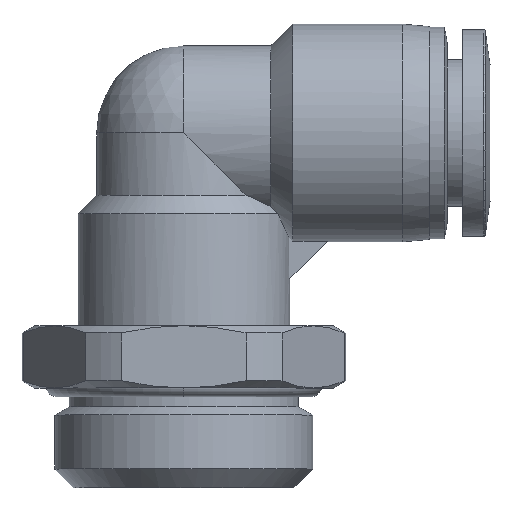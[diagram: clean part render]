
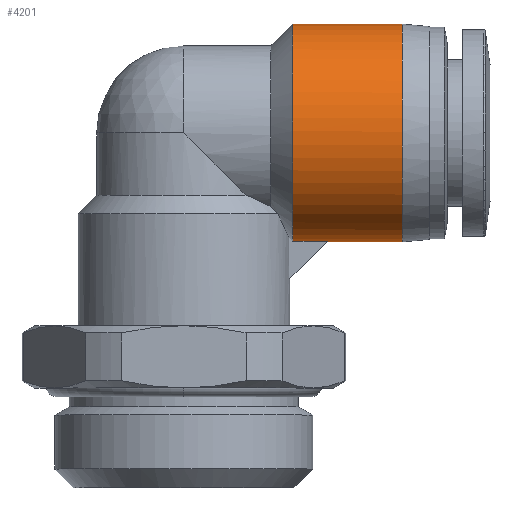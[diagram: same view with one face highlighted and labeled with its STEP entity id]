
A CAD part, top view. The second image highlights one B-rep face of the part: STEP entity #4201.
In plain terms, the highlighted cylindrical face has radius 8.75 mm (diameter 17.5 mm), a partial arc.
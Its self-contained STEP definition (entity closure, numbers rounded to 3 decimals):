
#66 = CARTESIAN_POINT ( 'NONE',  ( 11.557, 6.807, 1. ) ) ;
#123 = EDGE_CURVE ( 'NONE', #518, #2696, #3573, .T. ) ;
#147 = EDGE_CURVE ( 'NONE', #2896, #2742, #3276, .T. ) ;
#255 = CARTESIAN_POINT ( 'NONE',  ( 10.622, 6.807, 1. ) ) ;
#309 = CARTESIAN_POINT ( 'NONE',  ( 8.75, 18.192, 8.398 ) ) ;
#329 = CARTESIAN_POINT ( 'NONE',  ( 8.75, 13.785, 8.651 ) ) ;
#468 = B_SPLINE_CURVE_WITH_KNOTS ( 'NONE', 3,
 ( #3589, #1800, #3243, #66 ),
 .UNSPECIFIED., .F., .F.,
 ( 4, 4 ),
 ( 0.5, 1. ),
 .UNSPECIFIED. ) ;
#518 = VERTEX_POINT ( 'NONE', #2458 ) ;
#533 = VECTOR ( 'NONE', #3085, 1000. ) ;
#553 = CARTESIAN_POINT ( 'NONE',  ( 17.55, 19.907, 7.646 ) ) ;
#602 = CARTESIAN_POINT ( 'NONE',  ( 17.55, 24.022, 2.29 ) ) ;
#637 = CARTESIAN_POINT ( 'NONE',  ( 8.75, 24.039, 2.207 ) ) ;
#679 = DIRECTION ( 'NONE',  ( 1., 0., 0. ) ) ;
#742 = ORIENTED_EDGE ( 'NONE', *, *, #4444, .F. ) ;
#758 = LINE ( 'NONE', #3519, #3927 ) ;
#794 = CARTESIAN_POINT ( 'NONE',  ( 9.686, 6.807, 1. ) ) ;
#817 = CARTESIAN_POINT ( 'NONE',  ( 17.55, 17.79, 8.522 ) ) ;
#882 = CARTESIAN_POINT ( 'NONE',  ( 17.55, 6.75, 0. ) ) ;
#948 = CARTESIAN_POINT ( 'NONE',  ( 17.55, 11.093, 7.646 ) ) ;
#979 = CARTESIAN_POINT ( 'NONE',  ( 8.75, 9.022, 5.985 ) ) ;
#991 = CARTESIAN_POINT ( 'NONE',  ( 8.75, 6.807, 1. ) ) ;
#1020 = CARTESIAN_POINT ( 'NONE',  ( 8.75, 17.103, 8.672 ) ) ;
#1041 = CARTESIAN_POINT ( 'NONE',  ( 8.75, 14.899, 8.799 ) ) ;
#1285 = CARTESIAN_POINT ( 'NONE',  ( 13.15, 6.75, 0. ) ) ;
#1357 = EDGE_CURVE ( 'NONE', #2752, #2896, #3070, .T. ) ;
#1359 = ORIENTED_EDGE ( 'NONE', *, *, #1973, .T. ) ;
#1494 = CARTESIAN_POINT ( 'NONE',  ( 17.55, 20.877, 6.997 ) ) ;
#1800 = CARTESIAN_POINT ( 'NONE',  ( 11.5, 6.75, 0.333 ) ) ;
#1919 = CARTESIAN_POINT ( 'NONE',  ( 17.55, 23.146, 4.407 ) ) ;
#1948 = CARTESIAN_POINT ( 'NONE',  ( 17.55, 24.25, 0. ) ) ;
#1973 = EDGE_CURVE ( 'NONE', #3363, #2696, #4457, .T. ) ;
#1979 = ORIENTED_EDGE ( 'NONE', *, *, #147, .T. ) ;
#2002 = CARTESIAN_POINT ( 'NONE',  ( 8.75, 10.711, 7.406 ) ) ;
#2045 = EDGE_LOOP ( 'NONE', ( #3350, #1359, #4130, #742, #3411, #1979 ) ) ;
#2047 = CARTESIAN_POINT ( 'NONE',  ( 8.75, 24.25, 1.104 ) ) ;
#2094 = CARTESIAN_POINT ( 'NONE',  ( 8.75, 6.933, 2.096 ) ) ;
#2191 = CARTESIAN_POINT ( 'NONE',  ( 17.55, 16.645, 8.75 ) ) ;
#2367 = CARTESIAN_POINT ( 'NONE',  ( 8.75, 11.691, 7.954 ) ) ;
#2436 = FACE_OUTER_BOUND ( 'NONE', #2045, .T. ) ;
#2458 = CARTESIAN_POINT ( 'NONE',  ( 17.55, 24.25, 0. ) ) ;
#2692 = CARTESIAN_POINT ( 'NONE',  ( 17.55, 22.497, 5.377 ) ) ;
#2696 = VERTEX_POINT ( 'NONE', #882 ) ;
#2716 = CARTESIAN_POINT ( 'NONE',  ( 17.55, 7.854, 4.407 ) ) ;
#2742 = VERTEX_POINT ( 'NONE', #3415 ) ;
#2747 = AXIS2_PLACEMENT_3D ( 'NONE', #3441, #679, #4169 ) ;
#2752 = VERTEX_POINT ( 'NONE', #3311 ) ;
#2831 = CARTESIAN_POINT ( 'NONE',  ( 8.75, 6.807, 1. ) ) ;
#2896 = VERTEX_POINT ( 'NONE', #991 ) ;
#2923 = CARTESIAN_POINT ( 'NONE',  ( 17.55, 10.123, 6.997 ) ) ;
#3012 = CARTESIAN_POINT ( 'NONE',  ( 17.55, 13.21, 8.522 ) ) ;
#3070 = B_SPLINE_CURVE_WITH_KNOTS ( 'NONE', 3,
 ( #3510, #2047, #637, #3154, #4186, #3484, #4145, #309, #1020, #1041, #329, #2367, #2002, #979, #4556, #3439, #2094, #2831 ),
 .UNSPECIFIED., .F., .F.,
 ( 4, 2, 2, 2, 2, 2, 2, 2, 4 ),
 ( 0.5, 0.563, 0.625, 0.688, 0.75, 0.813, 0.875, 0.938, 1. ),
 .UNSPECIFIED. ) ;
#3085 = DIRECTION ( 'NONE',  ( 1., 0., 0. ) ) ;
#3154 = CARTESIAN_POINT ( 'NONE',  ( 8.75, 23.223, 4.258 ) ) ;
#3215 = DIRECTION ( 'NONE',  ( 1., 0., 0. ) ) ;
#3243 = CARTESIAN_POINT ( 'NONE',  ( 11.519, 6.769, 0.667 ) ) ;
#3276 = B_SPLINE_CURVE_WITH_KNOTS ( 'NONE', 3,
 ( #3755, #794, #255, #4328 ),
 .UNSPECIFIED., .F., .F.,
 ( 4, 4 ),
 ( 0., 1. ),
 .UNSPECIFIED. ) ;
#3311 = CARTESIAN_POINT ( 'NONE',  ( 8.75, 24.25, 0. ) ) ;
#3350 = ORIENTED_EDGE ( 'NONE', *, *, #4163, .F. ) ;
#3363 = VERTEX_POINT ( 'NONE', #4463 ) ;
#3406 = CARTESIAN_POINT ( 'NONE',  ( 17.55, 24.25, 1.145 ) ) ;
#3411 = ORIENTED_EDGE ( 'NONE', *, *, #1357, .T. ) ;
#3415 = CARTESIAN_POINT ( 'NONE',  ( 11.557, 6.807, 1. ) ) ;
#3430 = CARTESIAN_POINT ( 'NONE',  ( 17.55, 6.978, 2.29 ) ) ;
#3439 = CARTESIAN_POINT ( 'NONE',  ( 8.75, 7.269, 3.168 ) ) ;
#3441 = CARTESIAN_POINT ( 'NONE',  ( 13.15, 15.5, 0. ) ) ;
#3484 = CARTESIAN_POINT ( 'NONE',  ( 8.75, 21.104, 6.81 ) ) ;
#3510 = CARTESIAN_POINT ( 'NONE',  ( 8.75, 24.25, 0. ) ) ;
#3519 = CARTESIAN_POINT ( 'NONE',  ( 13.15, 24.25, 0. ) ) ;
#3573 = B_SPLINE_CURVE_WITH_KNOTS ( 'NONE', 3,
 ( #1948, #3406, #602, #1919, #2692, #1494, #553, #817, #2191, #4460, #3012, #948, #2923, #4412, #2716, #3430, #4117, #4095 ),
 .UNSPECIFIED., .F., .F.,
 ( 4, 2, 2, 2, 2, 2, 2, 2, 4 ),
 ( 0., 0.062, 0.125, 0.187, 0.25, 0.312, 0.375, 0.437, 0.5 ),
 .UNSPECIFIED. ) ;
#3589 = CARTESIAN_POINT ( 'NONE',  ( 11.5, 6.75, 0. ) ) ;
#3755 = CARTESIAN_POINT ( 'NONE',  ( 8.75, 6.807, 1. ) ) ;
#3811 = CYLINDRICAL_SURFACE ( 'NONE', #2747, 8.75 ) ;
#3927 = VECTOR ( 'NONE', #3215, 1000. ) ;
#4095 = CARTESIAN_POINT ( 'NONE',  ( 17.55, 6.75, 0. ) ) ;
#4117 = CARTESIAN_POINT ( 'NONE',  ( 17.55, 6.75, 1.145 ) ) ;
#4130 = ORIENTED_EDGE ( 'NONE', *, *, #123, .F. ) ;
#4145 = CARTESIAN_POINT ( 'NONE',  ( 8.75, 20.193, 7.467 ) ) ;
#4163 = EDGE_CURVE ( 'NONE', #3363, #2742, #468, .T. ) ;
#4169 = DIRECTION ( 'NONE',  ( 0., 1., 0. ) ) ;
#4186 = CARTESIAN_POINT ( 'NONE',  ( 8.75, 22.619, 5.205 ) ) ;
#4201 = ADVANCED_FACE ( 'NONE', ( #2436 ), #3811, .T. ) ;
#4328 = CARTESIAN_POINT ( 'NONE',  ( 11.557, 6.807, 1. ) ) ;
#4412 = CARTESIAN_POINT ( 'NONE',  ( 17.55, 8.503, 5.377 ) ) ;
#4444 = EDGE_CURVE ( 'NONE', #2752, #518, #758, .T. ) ;
#4457 = LINE ( 'NONE', #1285, #533 ) ;
#4460 = CARTESIAN_POINT ( 'NONE',  ( 17.55, 14.355, 8.75 ) ) ;
#4463 = CARTESIAN_POINT ( 'NONE',  ( 11.5, 6.75, 0. ) ) ;
#4556 = CARTESIAN_POINT ( 'NONE',  ( 8.75, 8.314, 5.113 ) ) ;
